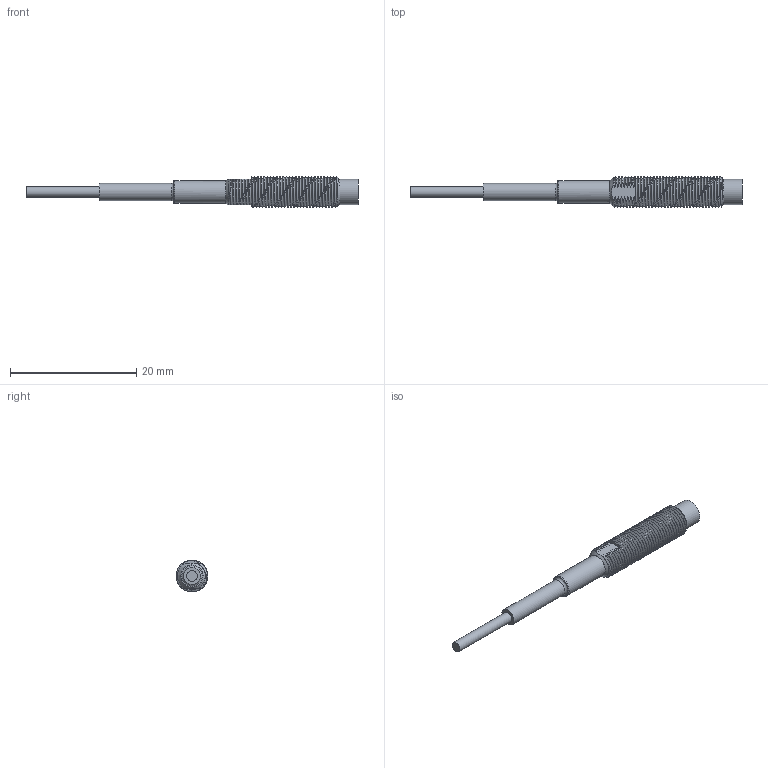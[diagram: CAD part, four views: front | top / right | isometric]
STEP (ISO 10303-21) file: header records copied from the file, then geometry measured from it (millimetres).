
FILE_DESCRIPTION( ( 'STEP AP214' ), '1' );
FILE_NAME( 'N:/Engineering/CAD_Solid/Wirbelstrom/Wirbelstromsensoren/T05/T05-G-KA.stp', '2011-07-05T07:15:51', ( ' ' ), ( ' ' ), 'XStep 1.0', ' ', ' ' );
FILE_SCHEMA( ( 'CONFIG_CONTROL_DESIGN) ( )' ) );
Length unit declared in the file: metre
Products named in the file (3): 1; 2; 3
Bounding box: 52.5 x 5 x 5 mm (x, y, z)
Surface area: 929.8 mm2 (no closed solid volume)
Topology: 0 solids, 55 shells, 56 faces, 304 edges, 295 vertices
Faces by surface type: bspline 29, cylinder 14, plane 8, cone 3, torus 2
Full cylindrical faces by diameter (mm): 1.7 x1, 2.7 x1, 3.5 x1, 4 x1
Entity records: 167191 total; most frequent: CARTESIAN_POINT 165568, ORIENTED_EDGE 290, EDGE_CURVE 290, VERTEX_POINT 290, DIRECTION 159, B_SPLINE_CURVE_WITH_KNOTS 136, FACE_BOUND 65, EDGE_LOOP 65
